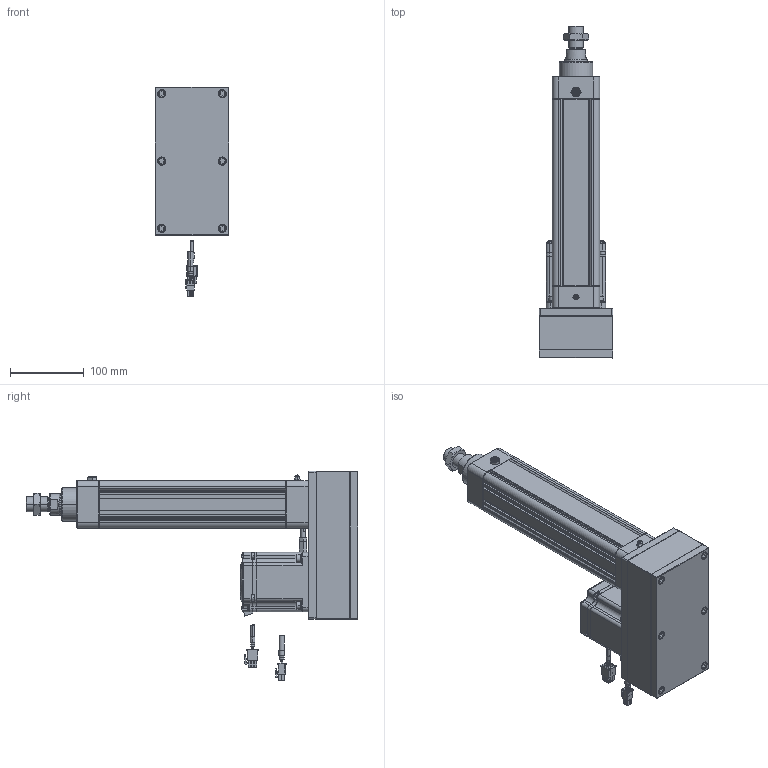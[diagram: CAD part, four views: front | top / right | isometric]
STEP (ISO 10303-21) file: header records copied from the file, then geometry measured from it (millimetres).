
FILE_DESCRIPTION((''),'2;1');
FILE_NAME('HE50-D-100-X1_ASM','2020-04-07T',('ASUS20200'),(''),'CREO PARAMETRIC BY PTC INC, 2014190','CREO PARAMETRIC BY PTC INC, 2014190','');
FILE_SCHEMA(('CONFIG_CONTROL_DESIGN'));
Length unit declared in the file: millimetre
Products named in the file (27): HE50-D-P-001-X1; HE50-D-P-002-X1; HE50-D-P-003-X1; 6301ZZ; LGLM-M8-22; SLM-01; YZ-M6X1; HE50-P-010-X1-400W; _MHMF082L1A2; _CABLE_MOTOR_TOP_05; _MOTOR_CONNECTOR_2; _CABLE_BRAKE_TOP_05; _MHMF_CONNECTOR_9_PIN_A6; MHMF082L1A2M2_1_ASM; TD-6; M6X25; LM-M6X1; JX6X6X20; M6X25-DS; LM-M6-15; HE50-P-012-X1; HE50-P-013-X1; M6X60; HE50-D-P-005-X1; HE50-D-P-004-X1; HE50-D-P-008-X1; HE50-D-100-X1_ASM
Assembly tree (48 placements, depth 3):
  HE50-D-100-X1_ASM
    HE50-D-P-001-X1
    HE50-D-P-002-X1
    HE50-D-P-003-X1
    6301ZZ
    LGLM-M8-22  x8
    SLM-01
    YZ-M6X1
    HE50-P-010-X1-400W
    MHMF082L1A2M2_1_ASM
      _MHMF082L1A2
      _CABLE_MOTOR_TOP_05
      _MOTOR_CONNECTOR_2
      _CABLE_BRAKE_TOP_05
      _MHMF_CONNECTOR_9_PIN_A6
    TD-6  x4
    M6X25  x4
    LM-M6X1  x5
    JX6X6X20
    M6X25-DS
    LM-M6-15
    HE50-P-012-X1
    HE50-P-013-X1
    M6X60  x6
    HE50-D-P-005-X1
    HE50-D-P-004-X1
    HE50-D-P-008-X1
Bounding box: 100 x 448.5 x 283.65 mm (x, y, z)
Volume: 1845862.5 mm3; surface area: 492062.5 mm2
Topology: 47 solids, 74 shells, 2788 faces, 6672 edges, 4118 vertices
Faces by surface type: plane 1227, cylinder 739, cone 679, torus 110, sphere 30, bspline 3
Entity records: 66774 total; most frequent: CARTESIAN_POINT 12683, DIRECTION 11779, ORIENTED_EDGE 10664, EDGE_CURVE 5376, AXIS2_PLACEMENT_3D 4343, VERTEX_POINT 3337, VECTOR 3093, LINE 3093
